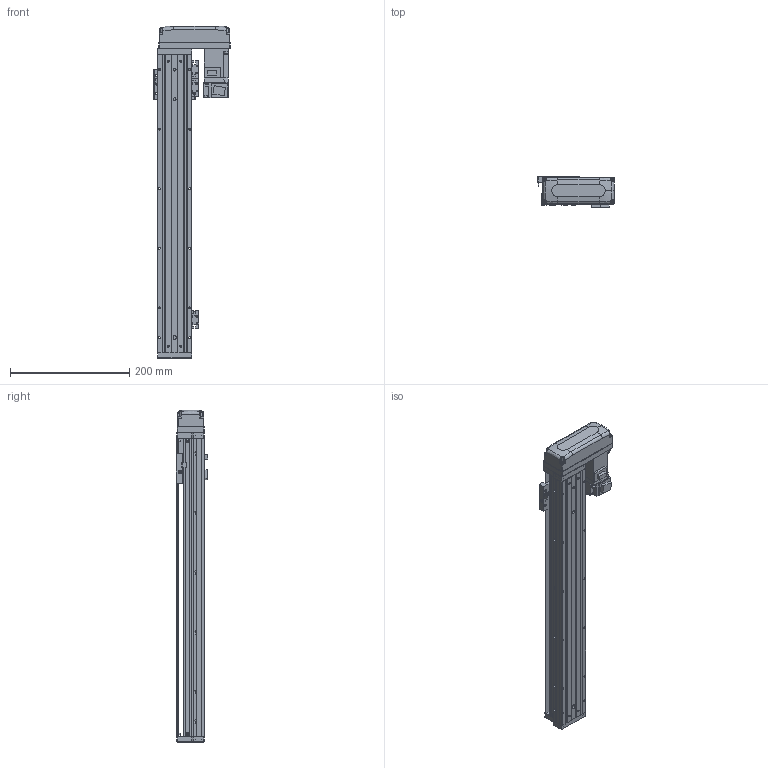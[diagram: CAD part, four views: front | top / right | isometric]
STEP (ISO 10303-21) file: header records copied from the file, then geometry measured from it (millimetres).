
FILE_DESCRIPTION (( 'STEP AP203' ), '1' );
FILE_NAME ('KTHA50-400-BL-M10-C4L.step', '2022-03-19T07:06:27', ( '微软用户' ), ( '微软中国' ), 'SwSTEP 2.0', 'SolidWorks 2020', '' );
FILE_SCHEMA (( 'CONFIG_CONTROL_DESIGN' ));
Length unit declared in the file: millimetre
Products named in the file (18): KTHA50-001_500; CTHA60-021; KTHA50-002; GBT 70.3-M3℅6; KTHA50-004; HG-KR13（三菱）; KTHA50-005; GBT 70.1-M3℅6; CTHA50-015-2_CTHA60-015-2; GB¨uT 70.2-M3¡Á6_M3¡Á6; CTHA60-017; CTHA60-033; EE_SX911P_R; GBT 70.1-M4×12; GBT 70.1-M3×15; GBT77-2000 M3×3; CTHA60-016; KTHA50-400-BL-M10-C4L
Assembly tree (53 placements, depth 2):
  KTHA50-400-BL-M10-C4L
    KTHA50-001_500
    KTHA50-002
    KTHA50-004
    KTHA50-005
    GB¨uT 70.2-M3¡Á6_M3¡Á6  x6
    EE_SX911P_R  x3
    GBT77-2000 M3×3  x6
    GBT 70.1-M3℅6  x6
    CTHA60-017  x3
    GBT 70.1-M4×12  x10
    CTHA60-016  x2
    CTHA60-021  x2
    GBT 70.3-M3℅6  x4
    HG-KR13（三菱）
    CTHA50-015-2_CTHA60-015-2
    CTHA60-033
    GBT 70.1-M3×15  x4
Bounding box: 128.4 x 53.3 x 557 mm (x, y, z)
Volume: 1185637.5 mm3; surface area: 291234.2 mm2
Topology: 56 solids, 56 shells, 2263 faces, 5351 edges, 3280 vertices
Faces by surface type: plane 1264, cylinder 550, cone 307, torus 100, bspline 26, sphere 16
Entity records: 38235 total; most frequent: CARTESIAN_POINT 7234, DIRECTION 5965, ORIENTED_EDGE 5714, EDGE_CURVE 2857, AXIS2_PLACEMENT_3D 2027, VECTOR 1911, LINE 1911, VERTEX_POINT 1794
